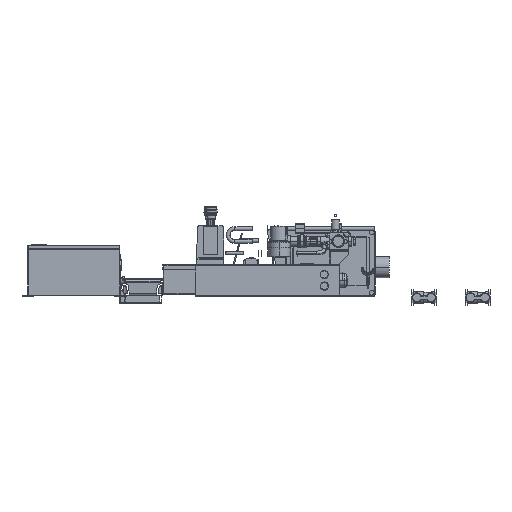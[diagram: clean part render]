
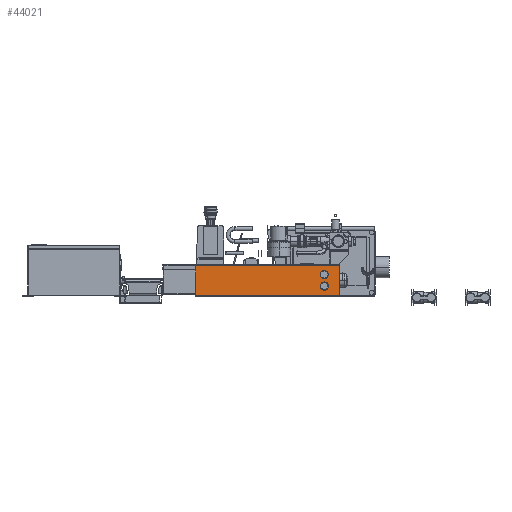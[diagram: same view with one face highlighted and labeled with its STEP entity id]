
A CAD part, left-side view. The second image highlights one B-rep face of the part: STEP entity #44021.
In plain terms, the highlighted planar face has unit normal (-1, 0, 0).
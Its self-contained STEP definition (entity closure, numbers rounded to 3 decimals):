
#42857=DIRECTION('',(0.,1.,0.));
#42858=VECTOR('',#42857,18.75);
#42859=CARTESIAN_POINT('',(32.75,-45.625,3.88));
#42860=LINE('',#42859,#42858);
#42861=DIRECTION('',(0.,0.,1.));
#42862=VECTOR('',#42861,3.85);
#42863=CARTESIAN_POINT('',(32.75,-26.875,0.03));
#42864=LINE('',#42863,#42862);
#42865=DIRECTION('',(0.,0.,1.));
#42866=VECTOR('',#42865,3.85);
#42867=CARTESIAN_POINT('',(32.75,-45.625,0.03));
#42868=LINE('',#42867,#42866);
#42869=DIRECTION('',(0.,1.,0.));
#42870=VECTOR('',#42869,18.75);
#42871=CARTESIAN_POINT('',(32.75,-45.625,0.03));
#42872=LINE('',#42871,#42870);
#42976=CARTESIAN_POINT('',(32.75,-45.625,0.03));
#42977=CARTESIAN_POINT('',(32.75,-45.625,3.88));
#42978=VERTEX_POINT('',#42976);
#42979=VERTEX_POINT('',#42977);
#43080=CARTESIAN_POINT('',(32.75,-26.875,0.03));
#43081=CARTESIAN_POINT('',(32.75,-26.875,3.88));
#43082=VERTEX_POINT('',#43080);
#43083=VERTEX_POINT('',#43081);
#44008=CARTESIAN_POINT('',(32.75,-46.375,0.03));
#44009=DIRECTION('',(-1.,0.,0.));
#44010=DIRECTION('',(0.,0.,1.));
#44011=AXIS2_PLACEMENT_3D('',#44008,#44009,#44010);
#44012=PLANE('',#44011);
#44014=ORIENTED_EDGE('',*,*,#44013,.T.);
#44015=ORIENTED_EDGE('',*,*,#44003,.F.);
#44016=ORIENTED_EDGE('',*,*,#43430,.F.);
#44018=ORIENTED_EDGE('',*,*,#44017,.T.);
#44019=EDGE_LOOP('',(#44014,#44015,#44016,#44018));
#44020=FACE_OUTER_BOUND('',#44019,.F.);
#44021=ADVANCED_FACE('',(#44020),#44012,.T.);
#43430=EDGE_CURVE('',#42978,#42979,#42868,.T.);
#44003=EDGE_CURVE('',#42979,#43083,#42860,.T.);
#44013=EDGE_CURVE('',#43082,#43083,#42864,.T.);
#44017=EDGE_CURVE('',#42978,#43082,#42872,.T.);
